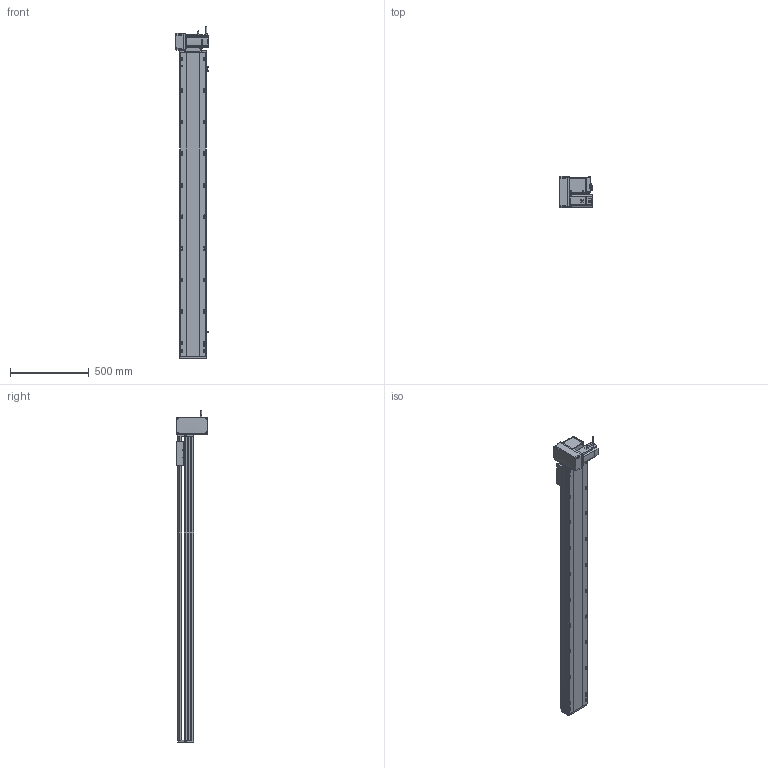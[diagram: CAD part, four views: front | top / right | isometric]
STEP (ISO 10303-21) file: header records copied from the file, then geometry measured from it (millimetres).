
FILE_DESCRIPTION (( 'STEP AP214' ), '1' );
FILE_NAME ('RTB17S-XX-1650-LM-M75-C4.STEP', '2025-12-12T00:42:14', ( '' ), ( '' ), 'SwSTEP 2.0', 'SolidWorks 2018', '' );
FILE_SCHEMA (( 'AUTOMOTIVE_DESIGN' ));
Length unit declared in the file: millimetre
Products named in the file (15): 750W萇儂^RTB17S-XX-XX-LM-M75-C4; RTB17S-L-007奻裔^RTB17S-XX-XX-LM-M75-C4; RTB17S-L-014-T20-P75--々湍釱^RTB17S-LM-々湍釱蚾饜-750W_RTB17S-XX-XX-LM-M75-C4; EE672^RTB17S-XX-XX-LM-M75-C4; RTB17S-XX-1650-LM-M75-C4; RTB17S-L-004-賑釱^RTB17S-賑釱_RTB17S-XX-XX-LM-M75-C4; RTB22S-GY-018P^RTB17S-LM-々湍釱蚾饜-750W_RTB17S-XX-XX-LM-M75-C4; RTB17S-LM-々湍釱蚾饜-750W^RTB17S-XX-XX-LM-M75-C4; RTB22S-GY-008-M75--萇儂啣^RTB17S-LM-々湍釱蚾饜-750W_RTB17S-XX-XX-LM-M75-C4; RTB22S-GY-005P^RTB17S-LM-々湍釱蚾饜-750W_RTB17S-XX-XX-LM-M75-C4; RTB17S-L-001-耜醱啣^RTB17S-XX-XX-LM-M75-C4; RTB22S-GY-017P^RTB17S-LM-々湍釱蚾饜-750W_RTB17S-XX-XX-LM-M75-C4; RTB17S-賑釱^RTB17S-XX-XX-LM-M75-C4; RTH13-BL-012覜茼え俋离^RTB17S-賑釱_RTB17S-XX-XX-LM-M75-C4; RTB17-R-011菁釱^RTB17S-XX-XX-LM-M75-C4
Assembly tree (17 placements, depth 3):
  RTB17S-XX-1650-LM-M75-C4
    RTB17-R-011菁釱^RTB17S-XX-XX-LM-M75-C4
    EE672^RTB17S-XX-XX-LM-M75-C4  x3
    RTB17S-L-001-耜醱啣^RTB17S-XX-XX-LM-M75-C4
    RTB17S-賑釱^RTB17S-XX-XX-LM-M75-C4
      RTB17S-L-004-賑釱^RTB17S-賑釱_RTB17S-XX-XX-LM-M75-C4
      RTH13-BL-012覜茼え俋离^RTB17S-賑釱_RTB17S-XX-XX-LM-M75-C4
    RTB17S-L-007奻裔^RTB17S-XX-XX-LM-M75-C4
    750W萇儂^RTB17S-XX-XX-LM-M75-C4
    RTB17S-LM-々湍釱蚾饜-750W^RTB17S-XX-XX-LM-M75-C4
      RTB17S-L-014-T20-P75--々湍釱^RTB17S-LM-々湍釱蚾饜-750W_RTB17S-XX-XX-LM-M75-C4
      RTB22S-GY-005P^RTB17S-LM-々湍釱蚾饜-750W_RTB17S-XX-XX-LM-M75-C4
      RTB22S-GY-017P^RTB17S-LM-々湍釱蚾饜-750W_RTB17S-XX-XX-LM-M75-C4  x2
      RTB22S-GY-008-M75--萇儂啣^RTB17S-LM-々湍釱蚾饜-750W_RTB17S-XX-XX-LM-M75-C4
      RTB22S-GY-018P^RTB17S-LM-々湍釱蚾饜-750W_RTB17S-XX-XX-LM-M75-C4
Bounding box: 210.4 x 200 x 2102.2 mm (x, y, z)
Volume: 16259150.1 mm3; surface area: 2871131.7 mm2
Topology: 17 solids, 17 shells, 2153 faces, 5998 edges, 3878 vertices
Faces by surface type: plane 978, cylinder 759, bspline 294, cone 110, sphere 8, torus 4
Entity records: 61174 total; most frequent: CARTESIAN_POINT 18062, ORIENTED_EDGE 8840, DIRECTION 8222, EDGE_CURVE 4420, AXIS2_PLACEMENT_3D 2898, VERTEX_POINT 2882, LINE 2426, VECTOR 2426
